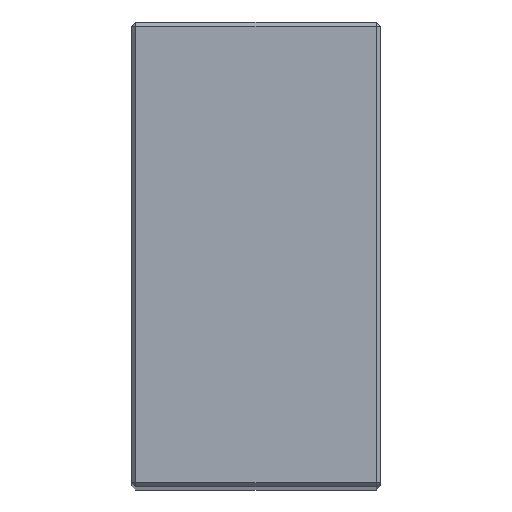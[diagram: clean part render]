
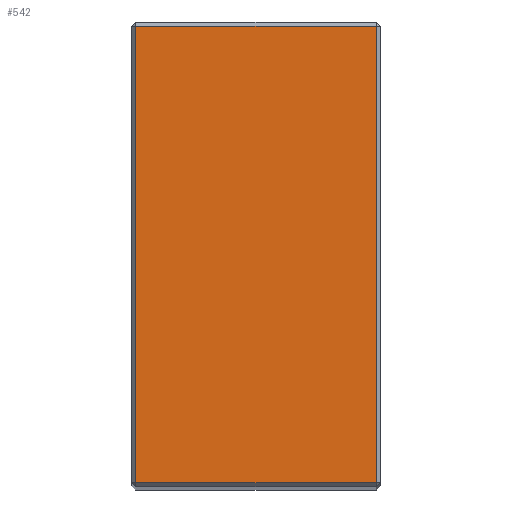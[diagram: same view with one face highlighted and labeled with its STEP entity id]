
A CAD part, top view. The second image highlights one B-rep face of the part: STEP entity #542.
In plain terms, the highlighted planar face has unit normal (0, 0, 1).
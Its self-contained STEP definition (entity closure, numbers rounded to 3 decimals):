
#4 = AXIS2_PLACEMENT_3D ( 'NONE', #396, #406, #393 ) ;
#19 = VERTEX_POINT ( 'NONE', #421 ) ;
#29 = VERTEX_POINT ( 'NONE', #235 ) ;
#36 = LINE ( 'NONE', #502, #37 ) ;
#37 = VECTOR ( 'NONE', #645, 1000. ) ;
#38 = VECTOR ( 'NONE', #328, 1000. ) ;
#54 = LINE ( 'NONE', #181, #38 ) ;
#94 = EDGE_LOOP ( 'NONE', ( #369, #435, #415, #623 ) ) ;
#116 = EDGE_CURVE ( 'NONE', #483, #19, #54, .T. ) ;
#126 = EDGE_CURVE ( 'NONE', #442, #483, #36, .T. ) ;
#167 = EDGE_CURVE ( 'NONE', #19, #29, #313, .T. ) ;
#181 = CARTESIAN_POINT ( 'NONE',  ( 31., 1., 223. ) ) ;
#235 = CARTESIAN_POINT ( 'NONE',  ( 30., 115., 223. ) ) ;
#313 = LINE ( 'NONE', #434, #516 ) ;
#328 = DIRECTION ( 'NONE',  ( 1., 0., 0. ) ) ;
#369 = ORIENTED_EDGE ( 'NONE', *, *, #566, .T. ) ;
#378 = VECTOR ( 'NONE', #592, 1000. ) ;
#393 = DIRECTION ( 'NONE',  ( -1., 0., 0. ) ) ;
#396 = CARTESIAN_POINT ( 'NONE',  ( 31., 116., 223. ) ) ;
#406 = DIRECTION ( 'NONE',  ( 0., 0., -1. ) ) ;
#415 = ORIENTED_EDGE ( 'NONE', *, *, #116, .T. ) ;
#421 = CARTESIAN_POINT ( 'NONE',  ( 30., 1., 223. ) ) ;
#426 = DIRECTION ( 'NONE',  ( 0., 1., 0. ) ) ;
#434 = CARTESIAN_POINT ( 'NONE',  ( 30., 116., 223. ) ) ;
#435 = ORIENTED_EDGE ( 'NONE', *, *, #126, .T. ) ;
#442 = VERTEX_POINT ( 'NONE', #573 ) ;
#483 = VERTEX_POINT ( 'NONE', #505 ) ;
#502 = CARTESIAN_POINT ( 'NONE',  ( -30., 116., 223. ) ) ;
#505 = CARTESIAN_POINT ( 'NONE',  ( -30., 1., 223. ) ) ;
#516 = VECTOR ( 'NONE', #426, 1000. ) ;
#542 = ADVANCED_FACE ( 'NONE', ( #599 ), #609, .F. ) ;
#566 = EDGE_CURVE ( 'NONE', #29, #442, #644, .T. ) ;
#573 = CARTESIAN_POINT ( 'NONE',  ( -30., 115., 223. ) ) ;
#590 = CARTESIAN_POINT ( 'NONE',  ( -31., 115., 223. ) ) ;
#592 = DIRECTION ( 'NONE',  ( -1., 0., 0. ) ) ;
#599 = FACE_OUTER_BOUND ( 'NONE', #94, .T. ) ;
#609 = PLANE ( 'NONE',  #4 ) ;
#623 = ORIENTED_EDGE ( 'NONE', *, *, #167, .T. ) ;
#644 = LINE ( 'NONE', #590, #378 ) ;
#645 = DIRECTION ( 'NONE',  ( 0., -1., 0. ) ) ;
